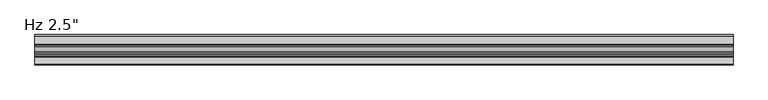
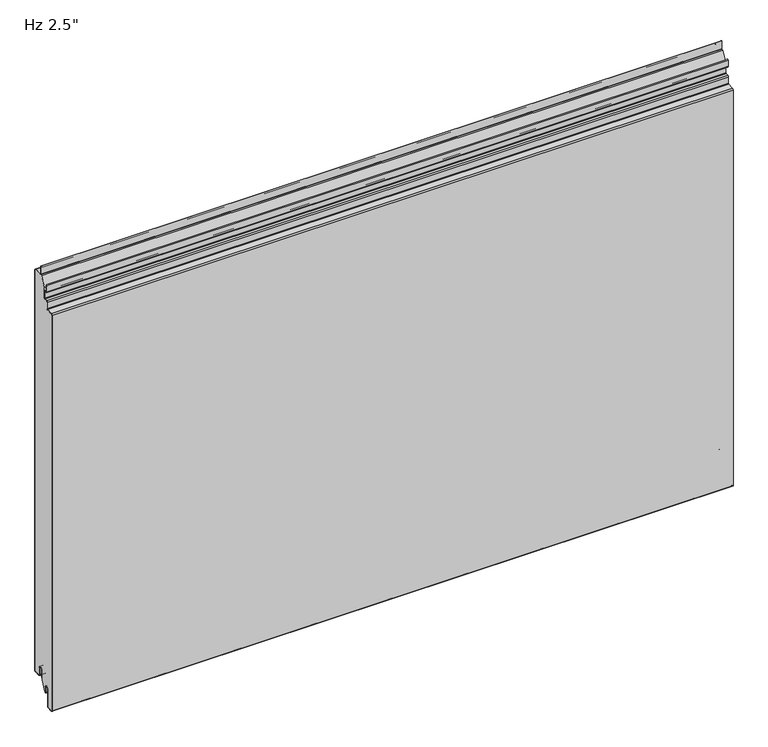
"""IFC4 building model written with IfcOpenShell, lengths in millimetres: plate geometry."""

from ifc_helpers import new_model, si_unit, point, frame, frame_2d, origin, place, context, project, spatial, polyline, circle_curve, ellipse_curve, trimmed, segment, composite_curve, outline, extrude, source, transform, mapped, element, save
from ifc_brep_helpers import plane_surface, cylinder_surface, revolved_surface, extruded_surface, advanced_brep


def plate_df57b0b7(model_context):
    return source(origin(), model_context, "Body", "SolidModel", [
        extrude(outline(composite_curve([segment(trimmed(circle_curve(frame_2d((-21.43125, 19.05)), 4.96875), [point((-16.4625, 19.05))], [point((-26.4, 19.05))], True, "CARTESIAN"), True, "CONTINUOUS"), segment(polyline([(-26.4, 19.05), (-26.4, -3.1323422), (-36.5326309, -23.01875), (-38.1, -23.01875), (-38.1, -13.5080174), (-38.89375, -13.5080174), (-38.6875, -11.9205174)]), True, "CONTINUOUS"), segment(trimmed(circle_curve(frame_2d((-43.65625, -11.9205174)), 4.96875), [point((-38.6875, -11.9205174))], [point((-48.625, -11.9205174))], True, "CARTESIAN"), True, "CONTINUOUS"), segment(polyline([(-48.625, -11.9205174), (-48.625, -50.1038221)]), True, "CONTINUOUS"), segment(trimmed(circle_curve(frame_2d((-50.00625, -50.1038221)), 1.38125), [point((-48.625, -50.1038221))], [point((-49.933961, -51.4831791))], False, "CARTESIAN"), True, "CONTINUOUS"), segment(polyline([(-49.933961, -51.4831791), (-61.046461, -52.0655606)]), True, "CONTINUOUS"), segment(trimmed(circle_curve(frame_2d((-61.11875, -50.6862035)), 1.38125), [point((-61.046461, -52.0655606))], [point((-62.5, -50.6862035))], False, "CARTESIAN"), True, "CONTINUOUS"), segment(polyline([(-62.5, -50.6862035), (-62.5, 846.2447607)]), True, "CONTINUOUS"), segment(trimmed(circle_curve(frame_2d((-61.11875, 846.2447607)), 1.38125), [point((-62.5, 846.2447607))], [point((-61.191039, 847.6241177))], False, "CARTESIAN"), True, "CONTINUOUS"), segment(polyline([(-61.191039, 847.6241177), (-47.4895807, 848.3421807)]), True, "CONTINUOUS"), segment(trimmed(circle_curve(frame_2d((-47.625, 850.9261347)), 2.5875), [point((-47.4895807, 848.3421807))], [point((-45.0375, 850.9261347))], True, "CARTESIAN"), True, "CONTINUOUS"), segment(polyline([(-45.0375, 850.9261347), (-45.0375, 865.0824411)]), True, "CONTINUOUS"), segment(trimmed(circle_curve(frame_2d((-43.65625, 865.0824411)), 1.38125), [point((-45.0375, 865.0824411))], [point((-43.728539, 866.4617981))], False, "CARTESIAN"), True, "CONTINUOUS"), segment(polyline([(-43.728539, 866.4617981), (-37.9645807, 866.7638744)]), True, "CONTINUOUS"), segment(trimmed(circle_curve(frame_2d((-38.1, 869.3478283)), 2.5875), [point((-37.9645807, 866.7638744))], [point((-35.5125, 869.3478283))], True, "CARTESIAN"), True, "CONTINUOUS"), segment(polyline([(-35.5125, 869.3478283), (-35.5125, 891.7892934), (-24.9057308, 912.60625), (-2.38125, 912.60625)]), True, "CONTINUOUS"), segment(trimmed(circle_curve(frame_2d((-2.38125, 911.225)), 1.38125), [point((-2.38125, 912.60625))], [point((-1.0, 911.225))], False, "CARTESIAN"), True, "CONTINUOUS"), segment(polyline([(-1.0, 911.225), (-1.0, 3.175)]), True, "CONTINUOUS"), segment(trimmed(circle_curve(frame_2d((-2.38125, 3.175)), 1.38125), [point((-1.0, 3.175))], [point((-2.38125, 1.79375))], False, "CARTESIAN"), True, "CONTINUOUS"), segment(polyline([(-2.38125, 1.79375), (-15.08125, 1.79375)]), True, "CONTINUOUS"), segment(trimmed(circle_curve(frame_2d((-15.08125, 3.175)), 1.38125), [point((-15.08125, 1.79375))], [point((-16.4625, 3.175))], False, "CARTESIAN"), True, "CONTINUOUS"), segment(polyline([(-16.4625, 3.175), (-16.4625, 19.05)]), True, "CONTINUOUS")], self_intersect=False)), frame((-730.0, 0.0, 0.0), z_axis=(1.0, 0.0, 0.0), x_axis=(0.0, 1.0, 0.0)), (0.0, 0.0, 1.0), 1460.0),
        extrude(outline(composite_curve([segment(polyline([(-25.4, 0.79375), (-26.4, 0.79375), (-26.4, 19.05)]), True, "CONTINUOUS"), segment(trimmed(circle_curve(frame_2d((-21.43125, 19.05)), 4.96875), [point((-26.4, 19.05))], [point((-16.4625, 19.05))], False, "CARTESIAN"), True, "CONTINUOUS"), segment(polyline([(-16.4625, 19.05), (-16.4625, 3.175)]), True, "CONTINUOUS"), segment(trimmed(circle_curve(frame_2d((-15.08125, 3.175)), 1.38125), [point((-16.4625, 3.175))], [point((-15.08125, 1.79375))], True, "CARTESIAN"), True, "CONTINUOUS"), segment(polyline([(-15.08125, 1.79375), (-2.38125, 1.79375)]), True, "CONTINUOUS"), segment(trimmed(circle_curve(frame_2d((-2.38125, 3.175)), 1.38125), [point((-2.38125, 1.79375))], [point((-1.0, 3.175))], True, "CARTESIAN"), True, "CONTINUOUS"), segment(polyline([(-1.0, 3.175), (-1.0, 911.225)]), True, "CONTINUOUS"), segment(trimmed(circle_curve(frame_2d((-2.38125, 911.225)), 1.38125), [point((-1.0, 911.225))], [point((-2.38125, 912.60625))], True, "CARTESIAN"), True, "CONTINUOUS"), segment(polyline([(-2.38125, 912.60625), (-19.446875, 912.60625)]), True, "CONTINUOUS"), segment(trimmed(circle_curve(frame_2d((-19.446875, 915.19375)), 2.5875), [point((-19.446875, 912.60625))], [point((-22.034375, 915.19375))], False, "CARTESIAN"), True, "CONTINUOUS"), segment(polyline([(-22.034375, 915.19375), (-22.034375, 932.65625), (-21.034375, 932.65625), (-21.034375, 915.19375)]), True, "CONTINUOUS"), segment(trimmed(circle_curve(frame_2d((-19.446875, 915.19375)), 1.5875), [point((-21.034375, 915.19375))], [point((-19.446875, 913.60625))], True, "CARTESIAN"), True, "CONTINUOUS"), segment(polyline([(-19.446875, 913.60625), (-2.38125, 913.60625)]), True, "CONTINUOUS"), segment(trimmed(circle_curve(frame_2d((-2.38125, 911.225)), 2.38125), [point((-2.38125, 913.60625))], [point((0.0, 911.225))], False, "CARTESIAN"), True, "CONTINUOUS"), segment(polyline([(0.0, 911.225), (0.0, 3.175)]), True, "CONTINUOUS"), segment(trimmed(circle_curve(frame_2d((-2.38125, 3.175)), 2.38125), [point((0.0, 3.175))], [point((-2.38125, 0.79375))], False, "CARTESIAN"), True, "CONTINUOUS"), segment(polyline([(-2.38125, 0.79375), (-15.08125, 0.79375)]), True, "CONTINUOUS"), segment(trimmed(circle_curve(frame_2d((-15.08125, 3.175)), 2.38125), [point((-15.08125, 0.79375))], [point((-17.4625, 3.175))], False, "CARTESIAN"), True, "CONTINUOUS"), segment(polyline([(-17.4625, 3.175), (-17.4625, 19.05)]), True, "CONTINUOUS"), segment(trimmed(circle_curve(frame_2d((-21.43125, 19.05)), 3.96875), [point((-17.4625, 19.05))], [point((-25.4, 19.05))], True, "CARTESIAN"), True, "CONTINUOUS"), segment(polyline([(-25.4, 19.05), (-25.4, 0.79375)]), True, "CONTINUOUS")], self_intersect=False)), frame((-730.0, 0.0, 0.0), z_axis=(1.0, 0.0, 0.0), x_axis=(0.0, 1.0, 0.0)), (0.0, 0.0, 1.0), 1460.0),
        advanced_brep(
        [(-730.0, -38.1, -23.2314549), (-730.0, -39.6875, -23.2314549), (-730.0, -39.6875, -11.9205174), (-730.0, -47.625, -11.9205174), (-730.0, -47.625, -50.1038221), (-730.0, -49.881625, -52.4818086), (-730.0, -60.994125, -53.0641901), (-730.0, -63.5, -50.6862035), (-730.0, -63.5, 846.2447607), (-730.0, -61.243375, 848.6227473), (-730.0, -47.5419167, 849.3408103), (-730.0, -46.0375, 850.9261347), (-730.0, -46.0375, 865.0824411), (-730.0, -43.780875, 867.4604276), (-730.0, -38.0169167, 867.7625039), (-730.0, -36.5125, 869.3478283), (-730.0, -36.5125, 884.2232326), (-730.0, -38.1, 885.8107326), (-730.0, -42.2671875, 885.8107326), (-730.0, -44.6484375, 888.1919826), (-730.0, -44.6484375, 902.6836032), (-730.0, -42.8546875, 902.6836032), (-730.0, -42.8546875, 892.9544826), (-730.0, -43.6484375, 892.9544826), (-730.0, -43.6484375, 888.1919826), (-730.0, -42.2671875, 886.8107326), (-730.0, -38.1, 886.8107326), (-730.0, -35.5125, 884.2232326), (-730.0, -35.5125, 869.3478283), (-730.0, -37.9645807, 866.7638744), (-730.0, -43.728539, 866.4617981), (-730.0, -45.0375, 865.0824411), (-730.0, -45.0375, 850.9261347), (-730.0, -47.4895807, 848.3421807), (-730.0, -61.191039, 847.6241177), (-730.0, -62.5, 846.2447607), (-730.0, -62.5, -50.6862035), (-730.0, -61.046461, -52.0655606), (-730.0, -49.933961, -51.4831791), (-730.0, -48.625, -50.1038221), (-730.0, -48.625, -11.9205174), (-730.0, -38.6875, -11.9205174), (-730.0, -38.89375, -13.5080174), (-730.0, -38.1, -13.5080174), (730.0, -38.1, -23.2314549), (730.0, -38.1, -13.5080174), (730.0, -38.89375, -13.5080174), (730.0, -38.6875, -11.9205174), (730.0, -48.625, -11.9205174), (730.0, -48.625, -50.1038221), (730.0, -49.933961, -51.4831791), (730.0, -61.046461, -52.0655606), (730.0, -62.5, -50.6862035), (730.0, -62.5, 846.2447607), (730.0, -61.191039, 847.6241177), (730.0, -47.4895807, 848.3421807), (730.0, -45.0375, 850.9261347), (730.0, -45.0375, 865.0824411), (730.0, -43.728539, 866.4617981), (730.0, -37.9645807, 866.7638744), (730.0, -35.5125, 869.3478283), (730.0, -35.5125, 884.2232326), (730.0, -38.1, 886.8107326), (730.0, -42.2671875, 886.8107326), (730.0, -43.6484375, 888.1919826), (730.0, -43.6484375, 892.9544826), (730.0, -42.8546875, 892.9544826), (730.0, -42.8546875, 902.6836032), (730.0, -44.6484375, 902.6836032), (730.0, -44.6484375, 888.1919826), (730.0, -42.2671875, 885.8107326), (730.0, -38.1, 885.8107326), (730.0, -36.5125, 884.2232326), (730.0, -36.5125, 869.3478283), (730.0, -38.0169167, 867.7625039), (730.0, -43.780875, 867.4604276), (730.0, -46.0375, 865.0824411), (730.0, -46.0375, 850.9261347), (730.0, -47.5419167, 849.3408103), (730.0, -61.243375, 848.6227473), (730.0, -63.5, 846.2447607), (730.0, -63.5, -50.6862035), (730.0, -60.994125, -53.0641901), (730.0, -49.881625, -52.4818086), (730.0, -47.625, -50.1038221), (730.0, -47.625, -11.9205174), (730.0, -39.6875, -11.9205174), (730.0, -39.6875, -23.2314549)],
        [
            (0, 1, circle_curve(frame((-730.0, -38.89375, -23.2314549), z_axis=(-1.0, 0.0, 0.0), x_axis=(0.0, 0.0, -1.0)), 0.79375)),
            (1, 2),
            (2, 3, circle_curve(frame((-730.0, -43.65625, -11.9205174), z_axis=(1.0, 0.0, 0.0), x_axis=(0.0, 0.0, -1.0)), 3.96875)),
            (3, 4),
            (4, 5, circle_curve(frame((-730.0, -50.00625, -50.1038221), z_axis=(-1.0, 0.0, 0.0), x_axis=(0.0, 0.0, -1.0)), 2.38125)),
            (5, 6),
            (6, 7, circle_curve(frame((-730.0, -61.11875, -50.6862035), z_axis=(-1.0, 0.0, 0.0), x_axis=(0.0, 0.0, -1.0)), 2.38125)),
            (7, 8),
            (8, 9, circle_curve(frame((-730.0, -61.11875, 846.2447607), z_axis=(-1.0, 0.0, 0.0), x_axis=(0.0, 0.0, -1.0)), 2.38125)),
            (9, 10),
            (10, 11, circle_curve(frame((-730.0, -47.625, 850.9261347), z_axis=(1.0, 0.0, 0.0), x_axis=(0.0, 0.0, -1.0)), 1.5875)),
            (11, 12),
            (12, 13, circle_curve(frame((-730.0, -43.65625, 865.0824411), z_axis=(-1.0, 0.0, 0.0), x_axis=(0.0, 0.0, -1.0)), 2.38125)),
            (13, 14),
            (14, 15, circle_curve(frame((-730.0, -38.1, 869.3478283), z_axis=(1.0, 0.0, 0.0), x_axis=(0.0, 0.0, -1.0)), 1.5875)),
            (15, 16),
            (16, 17, circle_curve(frame((-730.0, -38.1, 884.2232326), z_axis=(1.0, 0.0, 0.0), x_axis=(0.0, 0.0, -1.0)), 1.5875)),
            (17, 18),
            (18, 19, circle_curve(frame((-730.0, -42.2671875, 888.1919826), z_axis=(-1.0, 0.0, 0.0), x_axis=(0.0, 0.0, -1.0)), 2.38125)),
            (19, 20),
            (20, 21, ellipse_curve(frame((-730.0, -43.7515625, 902.6836032), z_axis=(-1.0, 0.0, 0.0), x_axis=(0.0, 1.0, 0.0)), 0.896875, 0.7852275)),
            (21, 22),
            (22, 23),
            (23, 24),
            (24, 25, circle_curve(frame((-730.0, -42.2671875, 888.1919826), z_axis=(1.0, 0.0, 0.0), x_axis=(0.0, 0.0, -1.0)), 1.38125)),
            (25, 26),
            (26, 27, circle_curve(frame((-730.0, -38.1, 884.2232326), z_axis=(-1.0, 0.0, 0.0), x_axis=(0.0, 0.0, -1.0)), 2.5875)),
            (27, 28),
            (28, 29, circle_curve(frame((-730.0, -38.1, 869.3478283), z_axis=(-1.0, 0.0, 0.0), x_axis=(0.0, 0.0, -1.0)), 2.5875)),
            (29, 30),
            (30, 31, circle_curve(frame((-730.0, -43.65625, 865.0824411), z_axis=(1.0, 0.0, 0.0), x_axis=(0.0, 0.0, -1.0)), 1.38125)),
            (31, 32),
            (32, 33, circle_curve(frame((-730.0, -47.625, 850.9261347), z_axis=(-1.0, 0.0, 0.0), x_axis=(0.0, 0.0, -1.0)), 2.5875)),
            (33, 34),
            (34, 35, circle_curve(frame((-730.0, -61.11875, 846.2447607), z_axis=(1.0, 0.0, 0.0), x_axis=(0.0, 0.0, -1.0)), 1.38125)),
            (35, 36),
            (36, 37, circle_curve(frame((-730.0, -61.11875, -50.6862035), z_axis=(1.0, 0.0, 0.0), x_axis=(0.0, 0.0, -1.0)), 1.38125)),
            (37, 38),
            (38, 39, circle_curve(frame((-730.0, -50.00625, -50.1038221), z_axis=(1.0, 0.0, 0.0), x_axis=(0.0, 0.0, -1.0)), 1.38125)),
            (39, 40),
            (40, 41, circle_curve(frame((-730.0, -43.65625, -11.9205174), z_axis=(-1.0, 0.0, 0.0), x_axis=(0.0, 0.0, -1.0)), 4.96875)),
            (41, 42),
            (42, 43),
            (43, 0),
            (44, 45),
            (45, 46),
            (46, 47),
            (47, 48, circle_curve(frame((730.0, -43.65625, -11.9205174), z_axis=(1.0, 0.0, 0.0), x_axis=(0.0, 0.0, -1.0)), 4.96875)),
            (48, 49),
            (49, 50, circle_curve(frame((730.0, -50.00625, -50.1038221), z_axis=(-1.0, 0.0, 0.0), x_axis=(0.0, 0.0, -1.0)), 1.38125)),
            (50, 51),
            (51, 52, circle_curve(frame((730.0, -61.11875, -50.6862035), z_axis=(-1.0, 0.0, 0.0), x_axis=(0.0, 0.0, -1.0)), 1.38125)),
            (52, 53),
            (53, 54, circle_curve(frame((730.0, -61.11875, 846.2447607), z_axis=(-1.0, 0.0, 0.0), x_axis=(0.0, 0.0, -1.0)), 1.38125)),
            (54, 55),
            (55, 56, circle_curve(frame((730.0, -47.625, 850.9261347), z_axis=(1.0, 0.0, 0.0), x_axis=(0.0, 0.0, -1.0)), 2.5875)),
            (56, 57),
            (57, 58, circle_curve(frame((730.0, -43.65625, 865.0824411), z_axis=(-1.0, 0.0, 0.0), x_axis=(0.0, 0.0, -1.0)), 1.38125)),
            (58, 59),
            (59, 60, circle_curve(frame((730.0, -38.1, 869.3478283), z_axis=(1.0, 0.0, 0.0), x_axis=(0.0, 0.0, -1.0)), 2.5875)),
            (60, 61),
            (61, 62, circle_curve(frame((730.0, -38.1, 884.2232326), z_axis=(1.0, 0.0, 0.0), x_axis=(0.0, 0.0, -1.0)), 2.5875)),
            (62, 63),
            (63, 64, circle_curve(frame((730.0, -42.2671875, 888.1919826), z_axis=(-1.0, 0.0, 0.0), x_axis=(0.0, 0.0, -1.0)), 1.38125)),
            (64, 65),
            (65, 66),
            (66, 67),
            (67, 68, ellipse_curve(frame((730.0, -43.7515625, 902.6836032), z_axis=(1.0, 0.0, 0.0), x_axis=(0.0, 1.0, 0.0)), 0.896875, 0.7852275)),
            (68, 69),
            (69, 70, circle_curve(frame((730.0, -42.2671875, 888.1919826), z_axis=(1.0, 0.0, 0.0), x_axis=(0.0, 0.0, -1.0)), 2.38125)),
            (70, 71),
            (71, 72, circle_curve(frame((730.0, -38.1, 884.2232326), z_axis=(-1.0, 0.0, 0.0), x_axis=(0.0, 0.0, -1.0)), 1.5875)),
            (72, 73),
            (73, 74, circle_curve(frame((730.0, -38.1, 869.3478283), z_axis=(-1.0, 0.0, 0.0), x_axis=(0.0, 0.0, -1.0)), 1.5875)),
            (74, 75),
            (75, 76, circle_curve(frame((730.0, -43.65625, 865.0824411), z_axis=(1.0, 0.0, 0.0), x_axis=(0.0, 0.0, -1.0)), 2.38125)),
            (76, 77),
            (77, 78, circle_curve(frame((730.0, -47.625, 850.9261347), z_axis=(-1.0, 0.0, 0.0), x_axis=(0.0, 0.0, -1.0)), 1.5875)),
            (78, 79),
            (79, 80, circle_curve(frame((730.0, -61.11875, 846.2447607), z_axis=(1.0, 0.0, 0.0), x_axis=(0.0, 0.0, -1.0)), 2.38125)),
            (80, 81),
            (81, 82, circle_curve(frame((730.0, -61.11875, -50.6862035), z_axis=(1.0, 0.0, 0.0), x_axis=(0.0, 0.0, -1.0)), 2.38125)),
            (82, 83),
            (83, 84, circle_curve(frame((730.0, -50.00625, -50.1038221), z_axis=(1.0, 0.0, 0.0), x_axis=(0.0, 0.0, -1.0)), 2.38125)),
            (84, 85),
            (85, 86, circle_curve(frame((730.0, -43.65625, -11.9205174), z_axis=(-1.0, 0.0, 0.0), x_axis=(0.0, 0.0, -1.0)), 3.96875)),
            (86, 87),
            (87, 44, circle_curve(frame((730.0, -38.89375, -23.2314549), z_axis=(1.0, 0.0, 0.0), x_axis=(0.0, 0.0, -1.0)), 0.79375)),
            (36, 52),
            (51, 37),
            (50, 38),
            (49, 39),
            (48, 40),
            (47, 41),
            (42, 46),
            (45, 43),
            (22, 66),
            (65, 23),
            (21, 67),
            (20, 68),
            (34, 54),
            (53, 35),
            (32, 56),
            (55, 33),
            (30, 58),
            (57, 31),
            (28, 60),
            (59, 29),
            (24, 64),
            (63, 25),
            (26, 62),
            (61, 27),
            (19, 69),
            (17, 71),
            (70, 18),
            (15, 73),
            (72, 16),
            (13, 75),
            (74, 14),
            (11, 77),
            (76, 12),
            (9, 79),
            (78, 10),
            (7, 81),
            (80, 8),
            (5, 83),
            (82, 6),
            (3, 85),
            (84, 4),
            (1, 87),
            (86, 2),
            (44, 0),
        ],
        [
            plane_surface(frame((-730.0, -63.5, 457.2), z_axis=(-1.0, 0.0, 0.0), x_axis=(0.0, -1.0, 0.0))),
            plane_surface(frame((730.0, -63.5, 457.2), z_axis=(1.0, 0.0, 0.0), x_axis=(0.0, -1.0, 0.0))),
            revolved_surface(polyline([(730.0, -61.11875, -52.0674535), (-730.0, -61.11875, -52.0674535)]), (-730.0, -61.11875, -50.6862035), (1.0, 0.0, 0.0)),
            plane_surface(frame((-730.0, -49.933961, -51.4831791), z_axis=(0.0, -0.05233595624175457, 0.9986295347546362), x_axis=(1.0, 0.0, 0.0))),
            revolved_surface(polyline([(730.0, -50.00625, -51.485072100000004), (-730.0, -50.00625, -51.485072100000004)]), (-730.0, -50.00625, -50.1038221), (1.0, 0.0, 0.0)),
            plane_surface(frame((-730.0, -48.625, -11.9205174), z_axis=(0.0, -1.0, 0.0), x_axis=(1.0, 0.0, 0.0))),
            cylinder_surface(frame((-730.0, -43.65625, -11.9205174), z_axis=(-1.0, 0.0, 0.0), x_axis=(0.0, 0.0, -1.0)), 4.96875),
            plane_surface(frame((-730.0, -38.1, -13.5080174), z_axis=(0.0, 0.0, 1.0), x_axis=(1.0, 0.0, 0.0))),
            plane_surface(frame((-730.0, -38.89375, -13.5080174), z_axis=(0.0, 0.9916655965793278, -0.12883844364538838), x_axis=(1.0, 0.0, 0.0))),
            plane_surface(frame((-730.0, -43.6484375, 892.9544826), z_axis=(0.0, 0.0, -1.0), x_axis=(1.0, 0.0, 0.0))),
            plane_surface(frame((-730.0, -42.8546875, 892.9544826), z_axis=(0.0, 1.0, 0.0), x_axis=(1.0, 0.0, 0.0))),
            extruded_surface(trimmed(ellipse_curve(frame((-730.0, -43.7515625, 902.6836032), z_axis=(1.0, 0.0, 0.0), x_axis=(0.0, 1.0, 0.0)), 0.896875, 0.7852275), [point((-730.0, -42.8546875, 902.6836032))], [point((-730.0, -44.6484375, 902.6836032))], True, "CARTESIAN"), (1460.0, 0.0, 0.0), 1460.0),
            revolved_surface(polyline([(730.0, -61.11875, 844.8635107), (-730.0, -61.11875, 844.8635107)]), (-730.0, -61.11875, 846.2447607), (1.0, 0.0, 0.0)),
            cylinder_surface(frame((-730.0, -47.625, 850.9261347), z_axis=(-1.0, 0.0, 0.0), x_axis=(0.0, 0.0, -1.0)), 2.5875),
            plane_surface(frame((-730.0, -61.191039, 847.6241177), z_axis=(0.0, 0.05233595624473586, -0.99862953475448), x_axis=(1.0, 0.0, 0.0))),
            plane_surface(frame((-730.0, -62.5, -50.6862035), z_axis=(0.0, 1.0, 0.0), x_axis=(1.0, 0.0, 0.0))),
            revolved_surface(polyline([(730.0, -43.65625, 863.7011911), (-730.0, -43.65625, 863.7011911)]), (-730.0, -43.65625, 865.0824411), (1.0, 0.0, 0.0)),
            cylinder_surface(frame((-730.0, -38.1, 869.3478283), z_axis=(-1.0, 0.0, 0.0), x_axis=(0.0, 0.0, -1.0)), 2.5875),
            plane_surface(frame((-730.0, -43.728539, 866.4617981), z_axis=(0.0, 0.05233595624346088, -0.9986295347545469), x_axis=(1.0, 0.0, 0.0))),
            plane_surface(frame((-730.0, -45.0375, 850.9261347), z_axis=(0.0, 1.0, 0.0), x_axis=(1.0, 0.0, 0.0))),
            revolved_surface(polyline([(730.0, -42.2671875, 886.8107325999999), (-730.0, -42.2671875, 886.8107325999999)]), (-730.0, -42.2671875, 888.1919826), (1.0, 0.0, 0.0)),
            cylinder_surface(frame((-730.0, -38.1, 884.2232326), z_axis=(-1.0, 0.0, 0.0), x_axis=(0.0, 0.0, -1.0)), 2.5875),
            plane_surface(frame((-730.0, -38.1, 886.8107326), z_axis=(0.0, 0.0, 1.0), x_axis=(1.0, 0.0, 0.0))),
            plane_surface(frame((-730.0, -43.6484375, 888.1919826), z_axis=(0.0, 1.0, 0.0), x_axis=(1.0, 0.0, 0.0))),
            plane_surface(frame((-730.0, -44.6484375, 902.6836032), z_axis=(0.0, -1.0, 0.0), x_axis=(1.0, 0.0, 0.0))),
            plane_surface(frame((-730.0, -42.2671875, 885.8107326), z_axis=(0.0, 0.0, -1.0), x_axis=(1.0, 0.0, 0.0))),
            cylinder_surface(frame((-730.0, -42.2671875, 888.1919826), z_axis=(-1.0, 0.0, 0.0), x_axis=(0.0, 0.0, -1.0)), 2.38125),
            plane_surface(frame((-730.0, -35.5125, 869.3478283), z_axis=(0.0, 1.0, 0.0), x_axis=(1.0, 0.0, 0.0))),
            plane_surface(frame((-730.0, -36.5125, 884.2232326), z_axis=(0.0, -1.0, 0.0), x_axis=(1.0, 0.0, 0.0))),
            plane_surface(frame((-730.0, -38.0169167, 867.7625039), z_axis=(0.0, -0.05233595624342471, 0.9986295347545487), x_axis=(1.0, 0.0, 0.0))),
            revolved_surface(polyline([(730.0, -38.1, 867.7603283), (-730.0, -38.1, 867.7603283)]), (-730.0, -38.1, 869.3478283), (1.0, 0.0, 0.0)),
            revolved_surface(polyline([(730.0, -38.1, 882.6357326), (-730.0, -38.1, 882.6357326)]), (-730.0, -38.1, 884.2232326), (1.0, 0.0, 0.0)),
            plane_surface(frame((-730.0, -46.0375, 865.0824411), z_axis=(0.0, -1.0, 0.0), x_axis=(1.0, 0.0, 0.0))),
            plane_surface(frame((-730.0, -47.5419167, 849.3408103), z_axis=(0.0, -0.052335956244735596, 0.99862953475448), x_axis=(1.0, 0.0, 0.0))),
            revolved_surface(polyline([(730.0, -47.625, 849.3386347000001), (-730.0, -47.625, 849.3386347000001)]), (-730.0, -47.625, 850.9261347), (1.0, 0.0, 0.0)),
            cylinder_surface(frame((-730.0, -43.65625, 865.0824411), z_axis=(-1.0, 0.0, 0.0), x_axis=(0.0, 0.0, -1.0)), 2.38125),
            plane_surface(frame((-730.0, -63.5, 846.2447607), z_axis=(0.0, -1.0, 0.0), x_axis=(1.0, 0.0, 0.0))),
            plane_surface(frame((-730.0, -60.994125, -53.0641901), z_axis=(0.0, 0.05233595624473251, -0.9986295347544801), x_axis=(1.0, 0.0, 0.0))),
            cylinder_surface(frame((-730.0, -61.11875, -50.6862035), z_axis=(-1.0, 0.0, 0.0), x_axis=(0.0, 0.0, -1.0)), 2.38125),
            cylinder_surface(frame((-730.0, -61.11875, 846.2447607), z_axis=(-1.0, 0.0, 0.0), x_axis=(0.0, 0.0, -1.0)), 2.38125),
            plane_surface(frame((-730.0, -47.625, -50.1038221), z_axis=(0.0, 1.0, 0.0), x_axis=(1.0, 0.0, 0.0))),
            plane_surface(frame((-730.0, -39.6875, -11.9205174), z_axis=(0.0, -1.0, 0.0), x_axis=(1.0, 0.0, 0.0))),
            revolved_surface(polyline([(730.0, -43.65625, -15.8892674), (-730.0, -43.65625, -15.8892674)]), (-730.0, -43.65625, -11.9205174), (1.0, 0.0, 0.0)),
            cylinder_surface(frame((-730.0, -50.00625, -50.1038221), z_axis=(-1.0, 0.0, 0.0), x_axis=(0.0, 0.0, -1.0)), 2.38125),
            plane_surface(frame((-730.0, -38.1, -23.2314549), z_axis=(0.0, 1.0, 0.0), x_axis=(1.0, 0.0, 0.0))),
            cylinder_surface(frame((-730.0, -38.89375, -23.2314549), z_axis=(-1.0, 0.0, 0.0), x_axis=(0.0, 0.0, -1.0)), 0.79375),
        ],
        [
            (0, [[1, 2, 3, 4, 5, 6, 7, 8, 9, 10, 11, 12, 13, 14, 15, 16, 17, 18, 19, 20, 21, 22, 23, 24, 25, 26, 27, 28, 29, 30, 31, 32, 33, 34, 35, 36, 37, 38, 39, 40, 41, 42, 43, 44]]),
            (1, [[45, 46, 47, 48, 49, 50, 51, 52, 53, 54, 55, 56, 57, 58, 59, 60, 61, 62, 63, 64, 65, 66, 67, 68, 69, 70, 71, 72, 73, 74, 75, 76, 77, 78, 79, 80, 81, 82, 83, 84, 85, 86, 87, 88]]),
            (2, [[89, -52, 90, -37]]),
            (3, [[-90, -51, 91, -38]]),
            (4, [[-91, -50, 92, -39]]),
            (5, [[-92, -49, 93, -40]]),
            (6, [[-93, -48, 94, -41]]),
            (7, [[95, -46, 96, -43]]),
            (8, [[-94, -47, -95, -42]]),
            (9, [[97, -66, 98, -23]]),
            (10, [[99, -67, -97, -22]]),
            (11, [[100, -68, -99, -21]]),
            (12, [[101, -54, 102, -35]]),
            (13, [[103, -56, 104, -33]]),
            (14, [[-104, -55, -101, -34]]),
            (15, [[-102, -53, -89, -36]]),
            (16, [[105, -58, 106, -31]]),
            (17, [[107, -60, 108, -29]]),
            (18, [[-108, -59, -105, -30]]),
            (19, [[-106, -57, -103, -32]]),
            (20, [[109, -64, 110, -25]]),
            (21, [[111, -62, 112, -27]]),
            (22, [[-110, -63, -111, -26]]),
            (23, [[-98, -65, -109, -24]]),
            (24, [[113, -69, -100, -20]]),
            (25, [[114, -71, 115, -18]]),
            (26, [[-115, -70, -113, -19]]),
            (27, [[-112, -61, -107, -28]]),
            (28, [[116, -73, 117, -16]]),
            (29, [[118, -75, 119, -14]]),
            (30, [[-119, -74, -116, -15]]),
            (31, [[-117, -72, -114, -17]]),
            (32, [[120, -77, 121, -12]]),
            (33, [[122, -79, 123, -10]]),
            (34, [[-123, -78, -120, -11]]),
            (35, [[-121, -76, -118, -13]]),
            (36, [[124, -81, 125, -8]]),
            (37, [[126, -83, 127, -6]]),
            (38, [[-127, -82, -124, -7]]),
            (39, [[-125, -80, -122, -9]]),
            (40, [[128, -85, 129, -4]]),
            (41, [[130, -87, 131, -2]]),
            (42, [[-131, -86, -128, -3]]),
            (43, [[-129, -84, -126, -5]]),
            (44, [[-96, -45, 132, -44]]),
            (45, [[-132, -88, -130, -1]]),
        ],
    ),
    ])


if __name__ == "__main__":
    model = new_model("IFC4")
    model_context = context("Model", 3, world=origin())
    ifc_project = project(units=[si_unit("LENGTHUNIT", "METRE", prefix="MILLI")], contexts=[model_context])
    site = spatial("IfcSite", under=ifc_project)
    building = spatial("IfcBuilding", under=site)
    placement = place(None, origin())
    plate_shape = plate_df57b0b7(model_context)
    element("IfcPlate", 1, ObjectType="KIP-36-DWHR-R19-CP-Hz-F : Hz 2.5\"", at=placement, inside=building, context=model_context, shape_type="MappedRepresentation", body=[
        mapped(plate_shape, transform((0.0, 0.0, 0.0), x_axis=(1.0, 0.0, 0.0), y_axis=(0.0, 1.0, 0.0), z_axis=(0.0, 0.0, 1.0))),
    ])
    save(model, "model.ifc")
